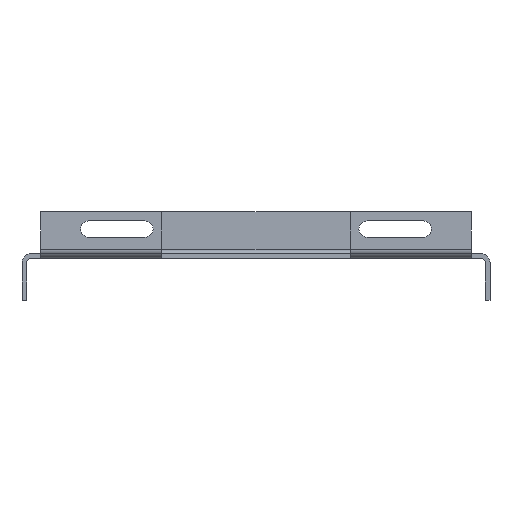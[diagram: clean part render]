
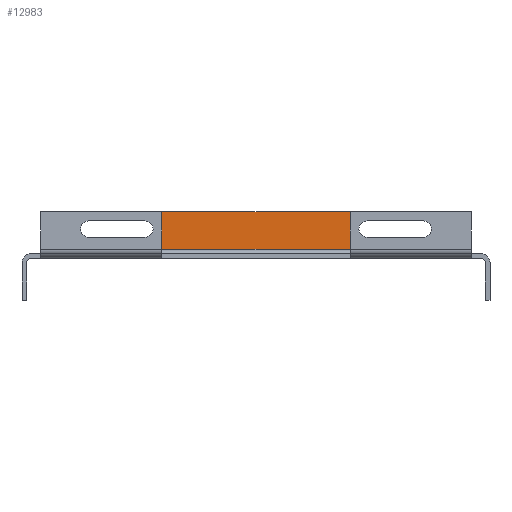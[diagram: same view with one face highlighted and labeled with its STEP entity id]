
A CAD part, front view. The second image highlights one B-rep face of the part: STEP entity #12983.
In plain terms, the highlighted planar face has unit normal (0, -1, 0).
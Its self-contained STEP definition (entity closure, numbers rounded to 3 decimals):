
#1076 = DIRECTION ( 'NONE',  ( -1., 0., 0. ) ) ;
#2228 = CIRCLE ( 'NONE', #34603, 3.5 ) ;
#2992 = DIRECTION ( 'NONE',  ( 0., 0., 1. ) ) ;
#4963 = CARTESIAN_POINT ( 'NONE',  ( 0., 866.3, 14. ) ) ;
#4999 = VERTEX_POINT ( 'NONE', #39100 ) ;
#5257 = VECTOR ( 'NONE', #68765, 1000. ) ;
#5286 = EDGE_CURVE ( 'NONE', #9146, #61947, #67068, .T. ) ;
#5374 = DIRECTION ( 'NONE',  ( 0., 0., 1. ) ) ;
#5725 = DIRECTION ( 'NONE',  ( 1., 0., 0. ) ) ;
#8706 = FACE_OUTER_BOUND ( 'NONE', #16215, .T. ) ;
#9146 = VERTEX_POINT ( 'NONE', #18190 ) ;
#9539 = CARTESIAN_POINT ( 'NONE',  ( -71.5, 866.3, 7. ) ) ;
#9550 = ORIENTED_EDGE ( 'NONE', *, *, #76975, .T. ) ;
#10214 = CARTESIAN_POINT ( 'NONE',  ( 47.5, 866.3, 10.5 ) ) ;
#10418 = LINE ( 'NONE', #57151, #13350 ) ;
#10853 = VERTEX_POINT ( 'NONE', #11052 ) ;
#11052 = CARTESIAN_POINT ( 'NONE',  ( 71.5, 866.3, 7. ) ) ;
#12023 = EDGE_CURVE ( 'NONE', #61947, #21042, #18778, .T. ) ;
#12454 = CARTESIAN_POINT ( 'NONE',  ( 92., 866.3, 1.8 ) ) ;
#12983 = ADVANCED_FACE ( 'NONE', ( #21507, #63337, #8706 ), #36903, .F. ) ;
#13350 = VECTOR ( 'NONE', #23672, 1000. ) ;
#13750 = CARTESIAN_POINT ( 'NONE',  ( 71.5, 866.3, 14. ) ) ;
#14680 = EDGE_CURVE ( 'NONE', #29707, #67059, #59234, .T. ) ;
#15669 = DIRECTION ( 'NONE',  ( 0., 0., 1. ) ) ;
#16215 = EDGE_LOOP ( 'NONE', ( #25841, #62430, #23260, #70449 ) ) ;
#18190 = CARTESIAN_POINT ( 'NONE',  ( -47.5, 866.3, 14. ) ) ;
#18498 = LINE ( 'NONE', #73101, #40462 ) ;
#18778 = LINE ( 'NONE', #45652, #72382 ) ;
#19222 = AXIS2_PLACEMENT_3D ( 'NONE', #21865, #61936, #15669 ) ;
#20473 = ORIENTED_EDGE ( 'NONE', *, *, #70991, .T. ) ;
#20703 = CARTESIAN_POINT ( 'NONE',  ( -47.5, 866.3, 7. ) ) ;
#20748 = LINE ( 'NONE', #55074, #43672 ) ;
#21042 = VERTEX_POINT ( 'NONE', #9539 ) ;
#21333 = CIRCLE ( 'NONE', #64909, 3.5 ) ;
#21507 = FACE_BOUND ( 'NONE', #71501, .T. ) ;
#21865 = CARTESIAN_POINT ( 'NONE',  ( -47.5, 866.3, 10.5 ) ) ;
#23260 = ORIENTED_EDGE ( 'NONE', *, *, #70044, .T. ) ;
#23366 = CARTESIAN_POINT ( 'NONE',  ( 92., 866.3, 18. ) ) ;
#23672 = DIRECTION ( 'NONE',  ( -1., 0., 0. ) ) ;
#24157 = AXIS2_PLACEMENT_3D ( 'NONE', #27351, #40990, #5374 ) ;
#25223 = EDGE_CURVE ( 'NONE', #21042, #43380, #2228, .T. ) ;
#25841 = ORIENTED_EDGE ( 'NONE', *, *, #56158, .F. ) ;
#26320 = ORIENTED_EDGE ( 'NONE', *, *, #35177, .T. ) ;
#27351 = CARTESIAN_POINT ( 'NONE',  ( 71.5, 866.3, 10.5 ) ) ;
#29707 = VERTEX_POINT ( 'NONE', #12454 ) ;
#31138 = CARTESIAN_POINT ( 'NONE',  ( 47.5, 866.3, 7. ) ) ;
#31495 = DIRECTION ( 'NONE',  ( 0., 0., 1. ) ) ;
#33604 = ORIENTED_EDGE ( 'NONE', *, *, #58667, .T. ) ;
#33983 = LINE ( 'NONE', #34860, #5257 ) ;
#34539 = LINE ( 'NONE', #61413, #35325 ) ;
#34603 = AXIS2_PLACEMENT_3D ( 'NONE', #58991, #64293, #51957 ) ;
#34860 = CARTESIAN_POINT ( 'NONE',  ( -92., 866.3, 0. ) ) ;
#35177 = EDGE_CURVE ( 'NONE', #10853, #47755, #34539, .T. ) ;
#35325 = VECTOR ( 'NONE', #1076, 1000. ) ;
#36903 = PLANE ( 'NONE',  #86473 ) ;
#37100 = DIRECTION ( 'NONE',  ( 0., 1., 0. ) ) ;
#39100 = CARTESIAN_POINT ( 'NONE',  ( -92., 866.3, 1.8 ) ) ;
#40462 = VECTOR ( 'NONE', #5725, 1000. ) ;
#40478 = VECTOR ( 'NONE', #78520, 1000. ) ;
#40990 = DIRECTION ( 'NONE',  ( 0., 1., 0. ) ) ;
#43380 = VERTEX_POINT ( 'NONE', #44416 ) ;
#43672 = VECTOR ( 'NONE', #62546, 1000. ) ;
#44416 = CARTESIAN_POINT ( 'NONE',  ( -71.5, 866.3, 14. ) ) ;
#45148 = CARTESIAN_POINT ( 'NONE',  ( 92., 866.3, 0. ) ) ;
#45652 = CARTESIAN_POINT ( 'NONE',  ( 0., 866.3, 7. ) ) ;
#47755 = VERTEX_POINT ( 'NONE', #31138 ) ;
#48369 = CARTESIAN_POINT ( 'NONE',  ( 0., 866.3, 0. ) ) ;
#49708 = CARTESIAN_POINT ( 'NONE',  ( 47.5, 866.3, 14. ) ) ;
#51270 = ORIENTED_EDGE ( 'NONE', *, *, #71129, .T. ) ;
#51957 = DIRECTION ( 'NONE',  ( 0., 0., 1. ) ) ;
#54070 = ORIENTED_EDGE ( 'NONE', *, *, #25223, .T. ) ;
#55074 = CARTESIAN_POINT ( 'NONE',  ( 0., 866.3, 18. ) ) ;
#56158 = EDGE_CURVE ( 'NONE', #29707, #4999, #10418, .T. ) ;
#57151 = CARTESIAN_POINT ( 'NONE',  ( 96.2, 866.3, 1.8 ) ) ;
#57382 = DIRECTION ( 'NONE',  ( 0., 0., 1. ) ) ;
#58432 = EDGE_CURVE ( 'NONE', #84905, #4999, #33983, .T. ) ;
#58667 = EDGE_CURVE ( 'NONE', #58962, #59408, #18498, .T. ) ;
#58962 = VERTEX_POINT ( 'NONE', #49708 ) ;
#58991 = CARTESIAN_POINT ( 'NONE',  ( -71.5, 866.3, 10.5 ) ) ;
#59234 = LINE ( 'NONE', #45148, #67789 ) ;
#59408 = VERTEX_POINT ( 'NONE', #13750 ) ;
#60695 = CIRCLE ( 'NONE', #24157, 3.5 ) ;
#61413 = CARTESIAN_POINT ( 'NONE',  ( 0., 866.3, 7. ) ) ;
#61936 = DIRECTION ( 'NONE',  ( 0., 1., 0. ) ) ;
#61947 = VERTEX_POINT ( 'NONE', #20703 ) ;
#62430 = ORIENTED_EDGE ( 'NONE', *, *, #14680, .T. ) ;
#62546 = DIRECTION ( 'NONE',  ( -1., 0., 0. ) ) ;
#63337 = FACE_BOUND ( 'NONE', #75649, .T. ) ;
#64293 = DIRECTION ( 'NONE',  ( 0., 1., 0. ) ) ;
#64909 = AXIS2_PLACEMENT_3D ( 'NONE', #10214, #37100, #57382 ) ;
#66966 = ORIENTED_EDGE ( 'NONE', *, *, #5286, .T. ) ;
#67059 = VERTEX_POINT ( 'NONE', #23366 ) ;
#67068 = CIRCLE ( 'NONE', #19222, 3.5 ) ;
#67789 = VECTOR ( 'NONE', #31495, 1000. ) ;
#68645 = DIRECTION ( 'NONE',  ( 0., 1., 0. ) ) ;
#68765 = DIRECTION ( 'NONE',  ( 0., 0., -1. ) ) ;
#70044 = EDGE_CURVE ( 'NONE', #67059, #84905, #20748, .T. ) ;
#70449 = ORIENTED_EDGE ( 'NONE', *, *, #58432, .T. ) ;
#70991 = EDGE_CURVE ( 'NONE', #47755, #58962, #21333, .T. ) ;
#71129 = EDGE_CURVE ( 'NONE', #59408, #10853, #60695, .T. ) ;
#71501 = EDGE_LOOP ( 'NONE', ( #80538, #54070, #9550, #66966 ) ) ;
#72382 = VECTOR ( 'NONE', #80010, 1000. ) ;
#73101 = CARTESIAN_POINT ( 'NONE',  ( 0., 866.3, 14. ) ) ;
#75402 = CARTESIAN_POINT ( 'NONE',  ( -92., 866.3, 18. ) ) ;
#75649 = EDGE_LOOP ( 'NONE', ( #33604, #51270, #26320, #20473 ) ) ;
#76975 = EDGE_CURVE ( 'NONE', #43380, #9146, #87029, .T. ) ;
#78520 = DIRECTION ( 'NONE',  ( 1., 0., 0. ) ) ;
#80010 = DIRECTION ( 'NONE',  ( -1., 0., 0. ) ) ;
#80538 = ORIENTED_EDGE ( 'NONE', *, *, #12023, .T. ) ;
#84905 = VERTEX_POINT ( 'NONE', #75402 ) ;
#86473 = AXIS2_PLACEMENT_3D ( 'NONE', #48369, #68645, #2992 ) ;
#87029 = LINE ( 'NONE', #4963, #40478 ) ;
